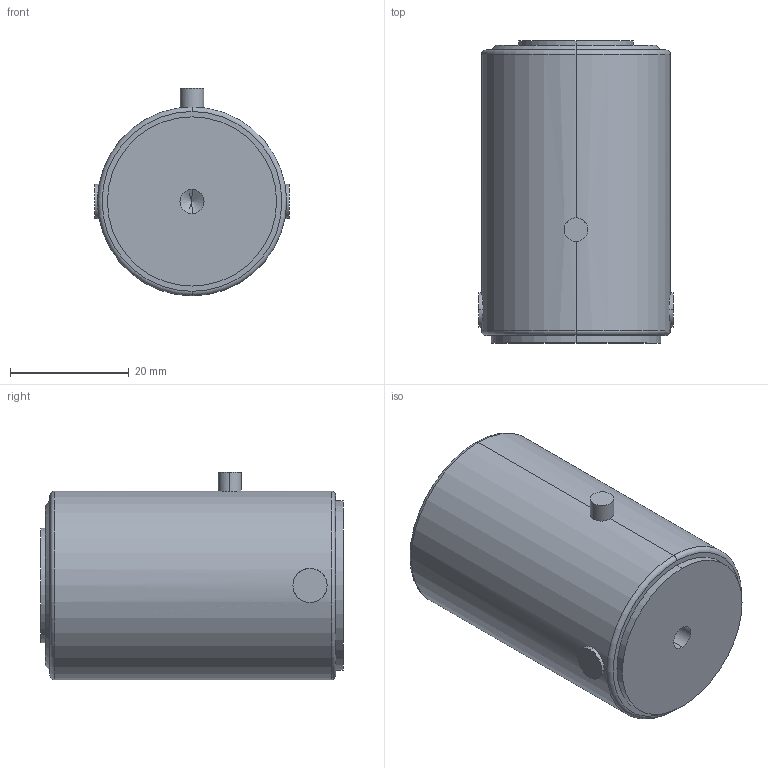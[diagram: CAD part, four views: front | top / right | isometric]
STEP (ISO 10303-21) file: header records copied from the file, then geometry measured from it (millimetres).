
FILE_DESCRIPTION (( 'STEP AP214' ), '1' );
FILE_NAME ('TT49F-20KLB.STEP', '2024-09-12T13:46:40', ( '' ), ( '' ), 'SwSTEP 2.0', 'SolidWorks 2008', '' );
FILE_SCHEMA (( 'AUTOMOTIVE_DESIGN' ));
Length unit declared in the file: inch
Products named in the file (1): TT49F-20KLB
Bounding box: 32.73 x 50.8 x 34.92 mm (x, y, z)
Volume: 39204.3 mm3; surface area: 6881.9 mm2
Topology: 1 solids, 1 shells, 34 faces, 73 edges, 44 vertices
Faces by surface type: cylinder 16, plane 8, cone 6, torus 4
Entity records: 1150 total; most frequent: CARTESIAN_POINT 332, DIRECTION 169, ORIENTED_EDGE 138, AXIS2_PLACEMENT_3D 73, EDGE_CURVE 69, VERTEX_POINT 44, EDGE_LOOP 41, CIRCLE 38
